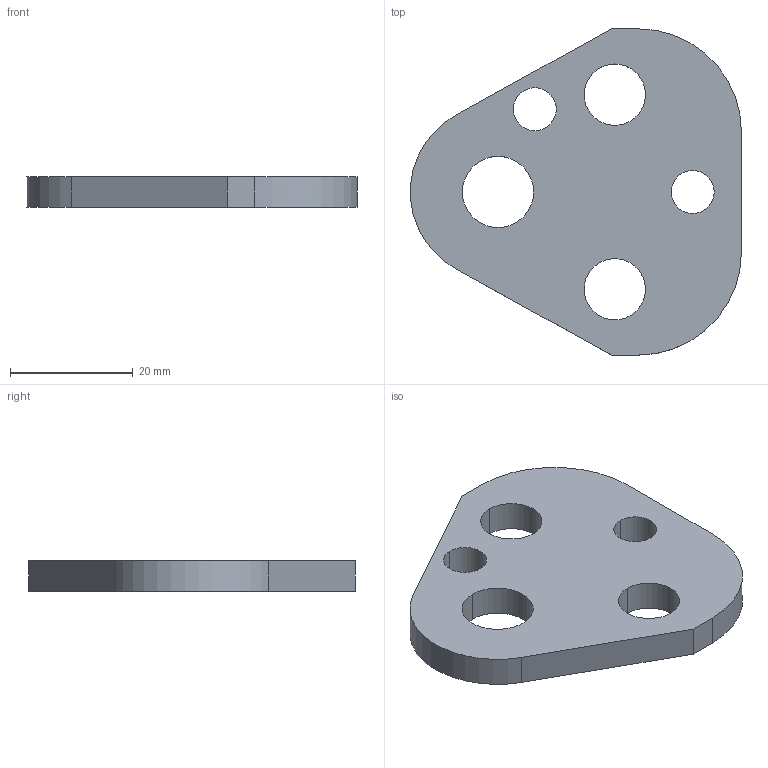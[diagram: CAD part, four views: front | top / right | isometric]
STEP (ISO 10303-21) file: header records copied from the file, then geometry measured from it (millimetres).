
FILE_DESCRIPTION(/* description */ (''),/* implementation_level */ '2;1');
FILE_NAME(/* name */ '3d_crnbd16_03631_r00.stp',/* time_stamp */ '2011-01-10T14:16:19+09:00',/* author */ ('MISUMI'),/* organization */ (''),/* preprocessor_version */ 'ST-DEVELOPER v11',/* originating_system */ 'UGS - NX 5.0',/* authorisation */ '');
FILE_SCHEMA (('CONFIG_CONTROL_DESIGN'));
Length unit declared in the file: millimetre
Products named in the file (1): 3d_crnbd16_03631_r00
Bounding box: 53.95 x 53.2 x 5 mm (x, y, z)
Volume: 8963.5 mm3; surface area: 5150.6 mm2
Topology: 1 solids, 1 shells, 20 faces, 54 edges, 36 vertices
Faces by surface type: cylinder 13, plane 7
Entity records: 750 total; most frequent: DIRECTION 122, CARTESIAN_POINT 111, ORIENTED_EDGE 108, EDGE_CURVE 54, AXIS2_PLACEMENT_3D 47, VERTEX_POINT 36, EDGE_LOOP 30, LINE 28
